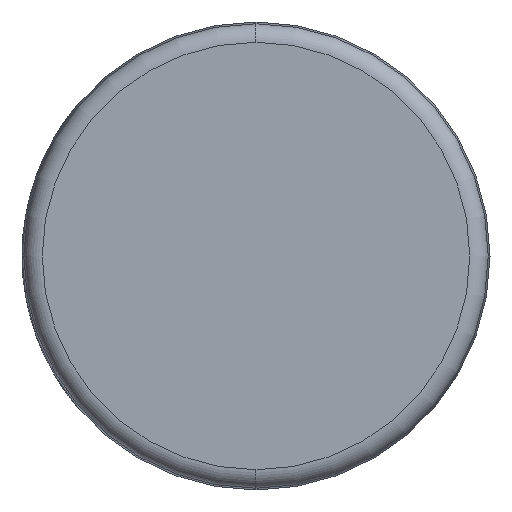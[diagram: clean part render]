
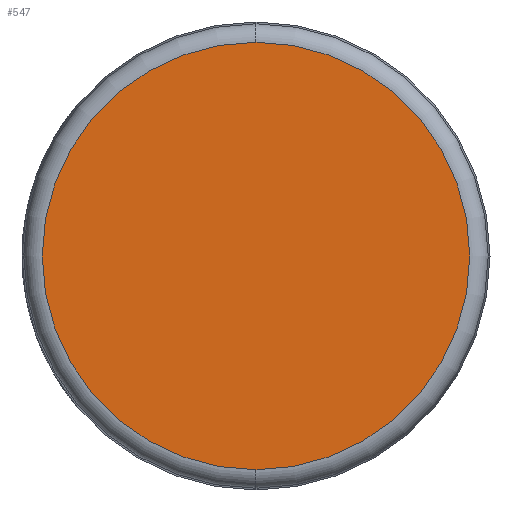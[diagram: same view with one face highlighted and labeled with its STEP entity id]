
A CAD part, left-side view. The second image highlights one B-rep face of the part: STEP entity #547.
In plain terms, the highlighted planar face has unit normal (-1, 0, 0).
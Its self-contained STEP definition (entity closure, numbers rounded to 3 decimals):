
#13 = VERTEX_POINT ( 'NONE', #456 ) ;
#42 = CARTESIAN_POINT ( 'NONE',  ( 0., 0., 28.772 ) ) ;
#83 = CARTESIAN_POINT ( 'NONE',  ( 0., 0., 0. ) ) ;
#189 = AXIS2_PLACEMENT_3D ( 'NONE', #83, #679, #690 ) ;
#208 = EDGE_LOOP ( 'NONE', ( #487, #557 ) ) ;
#273 = DIRECTION ( 'NONE',  ( 0., 0., -1. ) ) ;
#275 = DIRECTION ( 'NONE',  ( -1., 0., 0. ) ) ;
#279 = PLANE ( 'NONE',  #189 ) ;
#282 = CARTESIAN_POINT ( 'NONE',  ( 0., 0., 0. ) ) ;
#313 = DIRECTION ( 'NONE',  ( -1., 0., 0. ) ) ;
#326 = CIRCLE ( 'NONE', #439, 28.772 ) ;
#334 = AXIS2_PLACEMENT_3D ( 'NONE', #402, #313, #677 ) ;
#382 = EDGE_CURVE ( 'NONE', #752, #13, #326, .T. ) ;
#384 = CIRCLE ( 'NONE', #334, 28.772 ) ;
#402 = CARTESIAN_POINT ( 'NONE',  ( 0., 0., 0. ) ) ;
#439 = AXIS2_PLACEMENT_3D ( 'NONE', #282, #275, #273 ) ;
#456 = CARTESIAN_POINT ( 'NONE',  ( 0., 0., -28.772 ) ) ;
#487 = ORIENTED_EDGE ( 'NONE', *, *, #711, .T. ) ;
#547 = ADVANCED_FACE ( 'NONE', ( #686 ), #279, .F. ) ;
#557 = ORIENTED_EDGE ( 'NONE', *, *, #382, .T. ) ;
#677 = DIRECTION ( 'NONE',  ( 0., 0., -1. ) ) ;
#679 = DIRECTION ( 'NONE',  ( 1., 0., 0. ) ) ;
#686 = FACE_OUTER_BOUND ( 'NONE', #208, .T. ) ;
#690 = DIRECTION ( 'NONE',  ( 0., 0., -1. ) ) ;
#711 = EDGE_CURVE ( 'NONE', #13, #752, #384, .T. ) ;
#752 = VERTEX_POINT ( 'NONE', #42 ) ;
